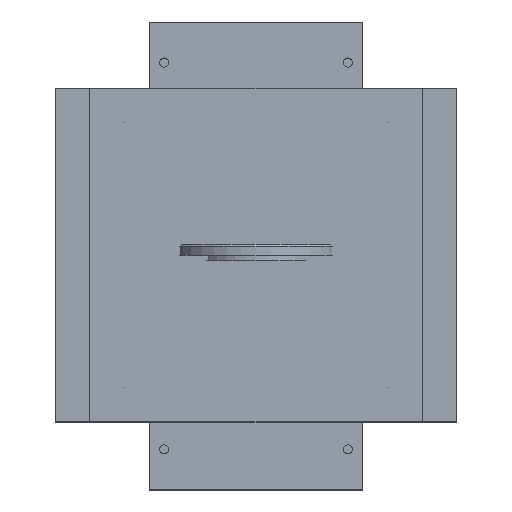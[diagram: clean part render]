
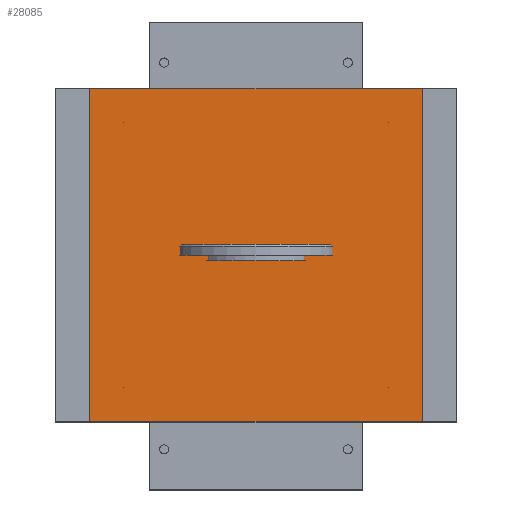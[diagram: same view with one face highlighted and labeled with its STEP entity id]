
A CAD part, top view. The second image highlights one B-rep face of the part: STEP entity #28085.
In plain terms, the highlighted planar face has unit normal (0, 0, 1).
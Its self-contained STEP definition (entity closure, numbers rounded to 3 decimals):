
#27771 = VERTEX_POINT('',#27772);
#27772 = CARTESIAN_POINT('',(-123.,-123.,402.));
#27779 = PLANE('',#27780);
#27780 = AXIS2_PLACEMENT_3D('',#27781,#27782,#27783);
#27781 = CARTESIAN_POINT('',(-123.,-123.,392.));
#27782 = DIRECTION('',(1.,0.,0.));
#27783 = DIRECTION('',(0.,0.,1.));
#27791 = PLANE('',#27792);
#27792 = AXIS2_PLACEMENT_3D('',#27793,#27794,#27795);
#27793 = CARTESIAN_POINT('',(-123.,-123.,392.));
#27794 = DIRECTION('',(0.,1.,0.));
#27795 = DIRECTION('',(0.,0.,1.));
#27832 = VERTEX_POINT('',#27833);
#27833 = CARTESIAN_POINT('',(-123.,123.,402.));
#27847 = PLANE('',#27848);
#27848 = AXIS2_PLACEMENT_3D('',#27849,#27850,#27851);
#27849 = CARTESIAN_POINT('',(-123.,123.,392.));
#27850 = DIRECTION('',(0.,1.,0.));
#27851 = DIRECTION('',(0.,0.,1.));
#27859 = EDGE_CURVE('',#27771,#27832,#27860,.T.);
#27860 = SURFACE_CURVE('',#27861,(#27865,#27872),.PCURVE_S1.);
#27861 = LINE('',#27862,#27863);
#27862 = CARTESIAN_POINT('',(-123.,-123.,402.));
#27863 = VECTOR('',#27864,1.);
#27864 = DIRECTION('',(0.,1.,0.));
#27865 = PCURVE('',#27779,#27866);
#27866 = DEFINITIONAL_REPRESENTATION('',(#27867),#27871);
#27867 = LINE('',#27868,#27869);
#27868 = CARTESIAN_POINT('',(10.,0.));
#27869 = VECTOR('',#27870,1.);
#27870 = DIRECTION('',(0.,-1.));
#27871 = ( GEOMETRIC_REPRESENTATION_CONTEXT(2) 
PARAMETRIC_REPRESENTATION_CONTEXT() REPRESENTATION_CONTEXT('2D SPACE',''
  ) );
#27872 = PCURVE('',#27873,#27878);
#27873 = PLANE('',#27874);
#27874 = AXIS2_PLACEMENT_3D('',#27875,#27876,#27877);
#27875 = CARTESIAN_POINT('',(-123.,-123.,402.));
#27876 = DIRECTION('',(0.,0.,1.));
#27877 = DIRECTION('',(1.,0.,0.));
#27878 = DEFINITIONAL_REPRESENTATION('',(#27879),#27883);
#27879 = LINE('',#27880,#27881);
#27880 = CARTESIAN_POINT('',(0.,0.));
#27881 = VECTOR('',#27882,1.);
#27882 = DIRECTION('',(0.,1.));
#27883 = ( GEOMETRIC_REPRESENTATION_CONTEXT(2) 
PARAMETRIC_REPRESENTATION_CONTEXT() REPRESENTATION_CONTEXT('2D SPACE',''
  ) );
#27891 = VERTEX_POINT('',#27892);
#27892 = CARTESIAN_POINT('',(123.,-123.,402.));
#27899 = PLANE('',#27900);
#27900 = AXIS2_PLACEMENT_3D('',#27901,#27902,#27903);
#27901 = CARTESIAN_POINT('',(123.,-123.,392.));
#27902 = DIRECTION('',(1.,0.,0.));
#27903 = DIRECTION('',(0.,0.,1.));
#27942 = VERTEX_POINT('',#27943);
#27943 = CARTESIAN_POINT('',(123.,123.,402.));
#27964 = EDGE_CURVE('',#27891,#27942,#27965,.T.);
#27965 = SURFACE_CURVE('',#27966,(#27970,#27977),.PCURVE_S1.);
#27966 = LINE('',#27967,#27968);
#27967 = CARTESIAN_POINT('',(123.,-123.,402.));
#27968 = VECTOR('',#27969,1.);
#27969 = DIRECTION('',(0.,1.,0.));
#27970 = PCURVE('',#27899,#27971);
#27971 = DEFINITIONAL_REPRESENTATION('',(#27972),#27976);
#27972 = LINE('',#27973,#27974);
#27973 = CARTESIAN_POINT('',(10.,0.));
#27974 = VECTOR('',#27975,1.);
#27975 = DIRECTION('',(0.,-1.));
#27976 = ( GEOMETRIC_REPRESENTATION_CONTEXT(2) 
PARAMETRIC_REPRESENTATION_CONTEXT() REPRESENTATION_CONTEXT('2D SPACE',''
  ) );
#27977 = PCURVE('',#27873,#27978);
#27978 = DEFINITIONAL_REPRESENTATION('',(#27979),#27983);
#27979 = LINE('',#27980,#27981);
#27980 = CARTESIAN_POINT('',(246.,0.));
#27981 = VECTOR('',#27982,1.);
#27982 = DIRECTION('',(0.,1.));
#27983 = ( GEOMETRIC_REPRESENTATION_CONTEXT(2) 
PARAMETRIC_REPRESENTATION_CONTEXT() REPRESENTATION_CONTEXT('2D SPACE',''
  ) );
#28010 = EDGE_CURVE('',#27771,#27891,#28011,.T.);
#28011 = SURFACE_CURVE('',#28012,(#28016,#28023),.PCURVE_S1.);
#28012 = LINE('',#28013,#28014);
#28013 = CARTESIAN_POINT('',(-123.,-123.,402.));
#28014 = VECTOR('',#28015,1.);
#28015 = DIRECTION('',(1.,0.,0.));
#28016 = PCURVE('',#27791,#28017);
#28017 = DEFINITIONAL_REPRESENTATION('',(#28018),#28022);
#28018 = LINE('',#28019,#28020);
#28019 = CARTESIAN_POINT('',(10.,0.));
#28020 = VECTOR('',#28021,1.);
#28021 = DIRECTION('',(0.,1.));
#28022 = ( GEOMETRIC_REPRESENTATION_CONTEXT(2) 
PARAMETRIC_REPRESENTATION_CONTEXT() REPRESENTATION_CONTEXT('2D SPACE',''
  ) );
#28023 = PCURVE('',#27873,#28024);
#28024 = DEFINITIONAL_REPRESENTATION('',(#28025),#28029);
#28025 = LINE('',#28026,#28027);
#28026 = CARTESIAN_POINT('',(0.,0.));
#28027 = VECTOR('',#28028,1.);
#28028 = DIRECTION('',(1.,0.));
#28029 = ( GEOMETRIC_REPRESENTATION_CONTEXT(2) 
PARAMETRIC_REPRESENTATION_CONTEXT() REPRESENTATION_CONTEXT('2D SPACE',''
  ) );
#28057 = EDGE_CURVE('',#27832,#27942,#28058,.T.);
#28058 = SURFACE_CURVE('',#28059,(#28063,#28070),.PCURVE_S1.);
#28059 = LINE('',#28060,#28061);
#28060 = CARTESIAN_POINT('',(-123.,123.,402.));
#28061 = VECTOR('',#28062,1.);
#28062 = DIRECTION('',(1.,0.,0.));
#28063 = PCURVE('',#27847,#28064);
#28064 = DEFINITIONAL_REPRESENTATION('',(#28065),#28069);
#28065 = LINE('',#28066,#28067);
#28066 = CARTESIAN_POINT('',(10.,0.));
#28067 = VECTOR('',#28068,1.);
#28068 = DIRECTION('',(0.,1.));
#28069 = ( GEOMETRIC_REPRESENTATION_CONTEXT(2) 
PARAMETRIC_REPRESENTATION_CONTEXT() REPRESENTATION_CONTEXT('2D SPACE',''
  ) );
#28070 = PCURVE('',#27873,#28071);
#28071 = DEFINITIONAL_REPRESENTATION('',(#28072),#28076);
#28072 = LINE('',#28073,#28074);
#28073 = CARTESIAN_POINT('',(0.,246.));
#28074 = VECTOR('',#28075,1.);
#28075 = DIRECTION('',(1.,0.));
#28076 = ( GEOMETRIC_REPRESENTATION_CONTEXT(2) 
PARAMETRIC_REPRESENTATION_CONTEXT() REPRESENTATION_CONTEXT('2D SPACE',''
  ) );
#28085 = ADVANCED_FACE('',(#28086),#27873,.T.);
#28086 = FACE_BOUND('',#28087,.T.);
#28087 = EDGE_LOOP('',(#28088,#28089,#28090,#28091));
#28088 = ORIENTED_EDGE('',*,*,#27859,.F.);
#28089 = ORIENTED_EDGE('',*,*,#28010,.T.);
#28090 = ORIENTED_EDGE('',*,*,#27964,.T.);
#28091 = ORIENTED_EDGE('',*,*,#28057,.F.);
